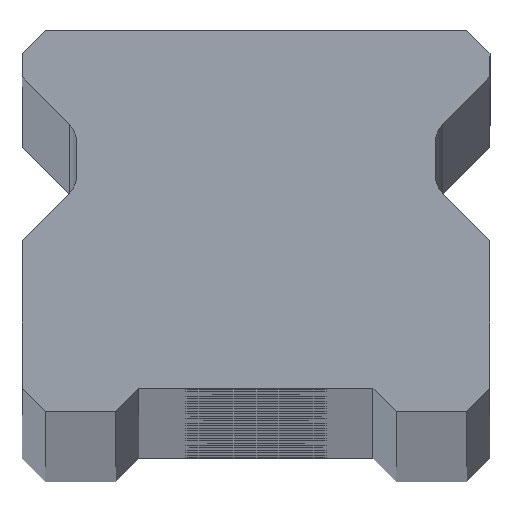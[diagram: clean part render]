
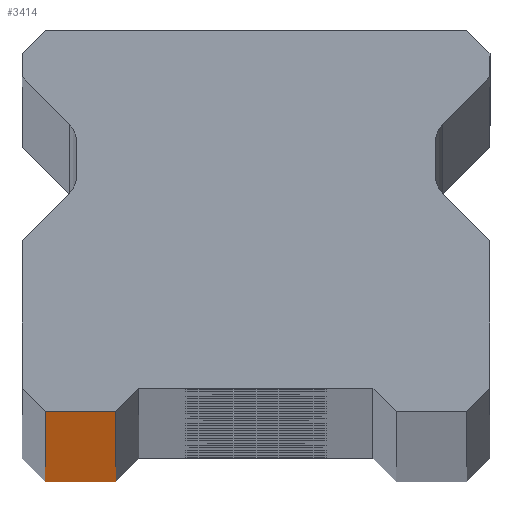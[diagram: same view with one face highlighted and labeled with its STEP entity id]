
A CAD part, top view. The second image highlights one B-rep face of the part: STEP entity #3414.
In plain terms, the highlighted planar face has unit normal (0, -1, 0).
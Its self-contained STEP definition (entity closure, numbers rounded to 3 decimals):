
#26 = DIRECTION ( 'NONE',  ( 1., 0., 0. ) ) ;
#67 = DIRECTION ( 'NONE',  ( -1., 0., 0. ) ) ;
#104 = PLANE ( 'NONE',  #3082 ) ;
#250 = EDGE_CURVE ( 'NONE', #3100, #5274, #1827, .T. ) ;
#503 = DIRECTION ( 'NONE',  ( 0., 1., 0. ) ) ;
#709 = VECTOR ( 'NONE', #897, 1000. ) ;
#897 = DIRECTION ( 'NONE',  ( 1., 0., 0. ) ) ;
#1100 = CARTESIAN_POINT ( 'NONE',  ( -9., 0., -860. ) ) ;
#1108 = VERTEX_POINT ( 'NONE', #5105 ) ;
#1366 = CARTESIAN_POINT ( 'NONE',  ( 10., 0., 860. ) ) ;
#1571 = DIRECTION ( 'NONE',  ( 0., 0., -1. ) ) ;
#1787 = FACE_OUTER_BOUND ( 'NONE', #1967, .T. ) ;
#1827 = LINE ( 'NONE', #4182, #709 ) ;
#1901 = VECTOR ( 'NONE', #1571, 1000. ) ;
#1967 = EDGE_LOOP ( 'NONE', ( #2211, #2220, #4948, #4319 ) ) ;
#2211 = ORIENTED_EDGE ( 'NONE', *, *, #250, .T. ) ;
#2216 = LINE ( 'NONE', #2840, #1901 ) ;
#2220 = ORIENTED_EDGE ( 'NONE', *, *, #3389, .T. ) ;
#2227 = VECTOR ( 'NONE', #2978, 1000. ) ;
#2356 = VERTEX_POINT ( 'NONE', #3865 ) ;
#2549 = CARTESIAN_POINT ( 'NONE',  ( -6., 0., -860. ) ) ;
#2840 = CARTESIAN_POINT ( 'NONE',  ( -9., 0., 860. ) ) ;
#2978 = DIRECTION ( 'NONE',  ( 0., 0., 1. ) ) ;
#3082 = AXIS2_PLACEMENT_3D ( 'NONE', #1366, #503, #67 ) ;
#3100 = VERTEX_POINT ( 'NONE', #1100 ) ;
#3389 = EDGE_CURVE ( 'NONE', #5274, #1108, #5017, .T. ) ;
#3414 = ADVANCED_FACE ( 'NONE', ( #1787 ), #104, .F. ) ;
#3545 = LINE ( 'NONE', #4987, #4803 ) ;
#3865 = CARTESIAN_POINT ( 'NONE',  ( -9., 0., 860. ) ) ;
#4056 = EDGE_CURVE ( 'NONE', #2356, #3100, #2216, .T. ) ;
#4162 = EDGE_CURVE ( 'NONE', #2356, #1108, #3545, .T. ) ;
#4182 = CARTESIAN_POINT ( 'NONE',  ( 10., 0., -860. ) ) ;
#4319 = ORIENTED_EDGE ( 'NONE', *, *, #4056, .T. ) ;
#4803 = VECTOR ( 'NONE', #26, 1000. ) ;
#4948 = ORIENTED_EDGE ( 'NONE', *, *, #4162, .F. ) ;
#4987 = CARTESIAN_POINT ( 'NONE',  ( 10., 0., 860. ) ) ;
#5017 = LINE ( 'NONE', #2549, #2227 ) ;
#5105 = CARTESIAN_POINT ( 'NONE',  ( -6., 0., 860. ) ) ;
#5274 = VERTEX_POINT ( 'NONE', #5281 ) ;
#5281 = CARTESIAN_POINT ( 'NONE',  ( -6., 0., -860. ) ) ;
